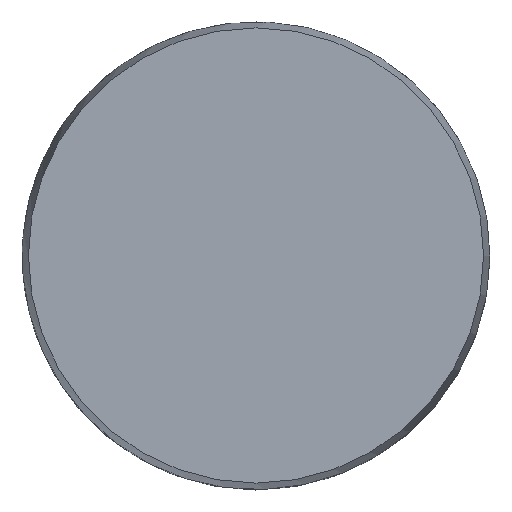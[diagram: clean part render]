
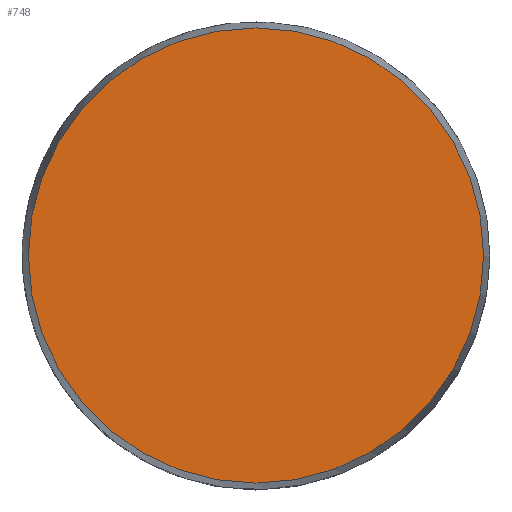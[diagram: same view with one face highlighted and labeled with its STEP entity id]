
A CAD part, top view. The second image highlights one B-rep face of the part: STEP entity #748.
In plain terms, the highlighted planar face has unit normal (0, 0, 1).
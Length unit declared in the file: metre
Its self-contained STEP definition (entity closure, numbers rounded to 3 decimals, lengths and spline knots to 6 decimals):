
#106=PLANE('',#837);
#304=ORIENTED_EDGE('',*,*,#470,.T.);
#470=EDGE_CURVE('',#566,#566,#594,.T.);
#566=VERTEX_POINT('',#2540);
#594=CIRCLE('',#838,0.0185);
#632=EDGE_LOOP('',(#304));
#688=FACE_BOUND('',#632,.T.);
#748=ADVANCED_FACE('',(#688),#106,.T.);
#837=AXIS2_PLACEMENT_3D('',#2538,#938,#939);
#838=AXIS2_PLACEMENT_3D('',#2539,#940,#941);
#938=DIRECTION('',(0.,0.,1.));
#939=DIRECTION('',(0.788,0.616,0.));
#940=DIRECTION('',(0.,0.,1.));
#941=DIRECTION('',(1.,0.,0.));
#2538=CARTESIAN_POINT('',(0.,0.,0.044));
#2539=CARTESIAN_POINT('',(0.,0.,0.044));
#2540=CARTESIAN_POINT('',(0.0185,0.,0.044));
